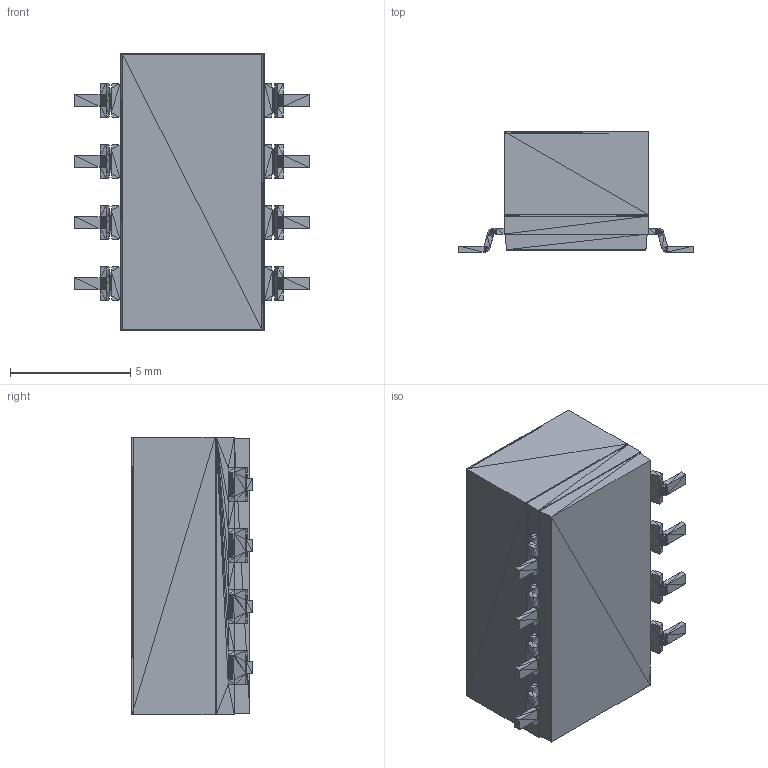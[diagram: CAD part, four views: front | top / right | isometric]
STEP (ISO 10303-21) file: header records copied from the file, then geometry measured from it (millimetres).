
FILE_DESCRIPTION(/* description */ (''),/* implementation_level */ '2;1');
FILE_NAME(/* name */ 'SBP 8004 T.stp',/* time_stamp */ '2020-5-18T14:21:05.5925337',/* author */ ('knitter-switch'),/* organization */ (''),/* preprocessor_version */ 'InStep v2',/* originating_system */ 'InStep V2.3',/* authorisation */ '');
FILE_SCHEMA (('AUTOMOTIVE_DESIGN { 1 0 10303 214 1 1 1 1 }'));
Length unit declared in the file: centimetre
Products named in the file (1): None
Bounding box: 9.78 x 5 x 11.56 mm (x, y, z)
Volume: 340.9 mm3; surface area: 556.5 mm2
Topology: 5 solids, 5 shells, 3746 faces, 5618 edges, 1879 vertices
Faces by surface type: plane 3746
Entity records: 54472 total; most frequent: ORIENTED_EDGE 11236, DIRECTION 6600, LINE 5618, EDGE_CURVE 5618, AXIS2_PLACEMENT_3D 3747, EDGE_LOOP 3746, FACE_OUTER_BOUND 3746, PLANE 3746
